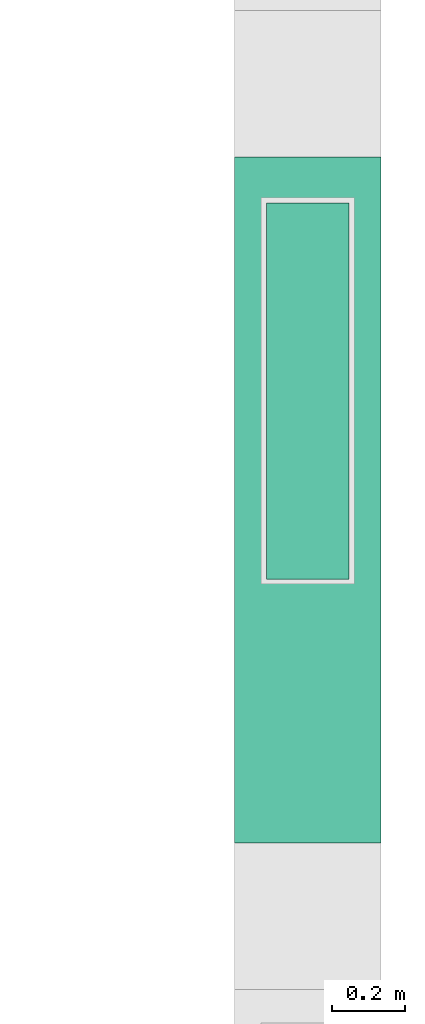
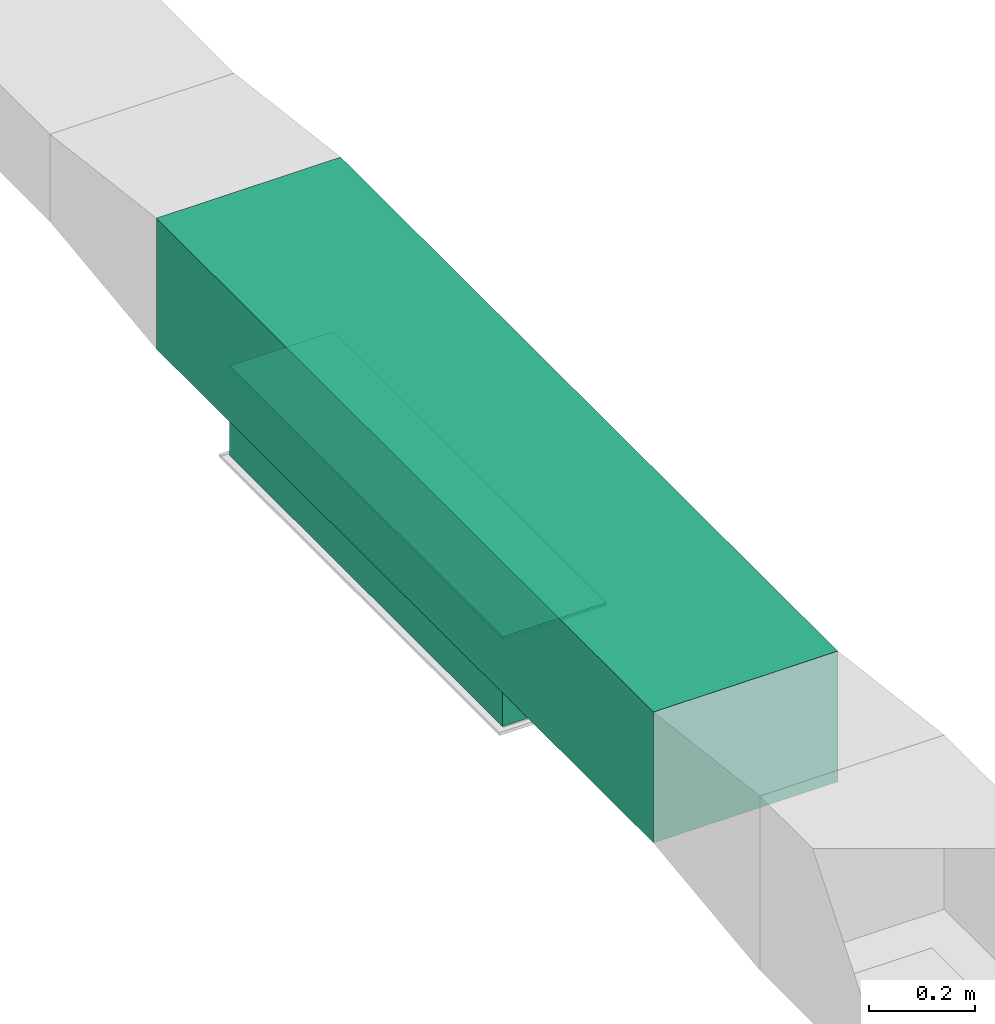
# One storey, part 19 of 60: 2 flow segments, 1 flow fitting.
"""IFC2X3 building model written with IfcOpenShell, lengths in millimetres."""

from ifc_helpers import new_model, entity, si_unit, converted_unit, derived_unit, direction, frame, origin, origin_2d_with_axis, place, context, subcontext, project, spatial, polyline, rectangle, outline, extrude, source, transform, mapped, material, type_object, type_shapes, element, save


model = new_model("IFC2X3")

# Units and contexts
model_context = context("Model", 3, precision=0.01, world=origin(), true_north=direction((6.123233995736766e-17, 1.0)))
body_context = subcontext(model_context, "Body", "Model", "MODEL_VIEW")
ifc_project = project(units=[si_unit("LENGTHUNIT", "METRE", prefix="MILLI"), converted_unit("PLANEANGLEUNIT", "DEGREE", entity("IfcPlaneAngleMeasure", 0.017453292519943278), si_unit("PLANEANGLEUNIT", "RADIAN"), dimensions=[0, 0, 0, 0, 0, 0, 0]), si_unit("AREAUNIT", "SQUARE_METRE"), derived_unit("THERMALTRANSMITTANCEUNIT", [(si_unit("MASSUNIT", "GRAM", prefix="KILO"), 1), (si_unit("THERMODYNAMICTEMPERATUREUNIT", "KELVIN"), -1), (si_unit("TIMEUNIT", "SECOND"), -3)])], contexts=[model_context])

# Site, building, storey
site_placement = place(None, origin())
site = spatial("IfcSite", under=ifc_project, at=site_placement, Name="Default", CompositionType="ELEMENT")
building_placement = place(site_placement, origin())
building = spatial("IfcBuilding", under=site, at=building_placement, Name="Praça Pedro II, 1301 - Centro (Sul), Teresina - PI, 64001-100", CompositionType="ELEMENT")
storey_placement = place(building_placement, frame((0.0, 0.0, 6040.0)))
storey = spatial("IfcBuildingStorey", under=building, at=storey_placement, Name="2PAV", CompositionType="ELEMENT", Elevation=6040.0)

# Flow segments
duct_segment_type = type_object("IfcDuctSegmentType", Name="Duto retangular:Raios cotovelos / torneiras", PredefinedType="NOTDEFINED")
flow_segment_1_placement = place(storey_placement, origin())
element("IfcFlowSegment", 1, at=flow_segment_1_placement, inside=storey, type_object=duct_segment_type, Name="Duto retangular:Raios cotovelos / torneiras", ObjectType="Duto retangular:Raios cotovelos / torneiras", context=body_context, shape_type="SweptSolid", body=[
    extrude(rectangle(XDim=1868.8014561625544, YDim=399.9999999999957, at=origin_2d_with_axis()), frame((39577.44502231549, -54867.9593798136, 3300.0), z_axis=(0.0, 0.0, 1.0), x_axis=(0.0, -1.0, 0.0)), (0.0, 0.0, 1.0), 300.0000000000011),
])
flow_segment_2_placement = place(storey_placement, origin())
element("IfcFlowSegment", 2, at=flow_segment_2_placement, inside=storey, type_object=duct_segment_type, Name="Duto retangular:Raios cotovelos / torneiras", ObjectType="Duto retangular:Raios cotovelos / torneiras", context=body_context, shape_type="SweptSolid", body=[
    extrude(rectangle(XDim=225.00000000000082, YDim=1024.9999999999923, at=origin_2d_with_axis()), frame((39577.444710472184, -54570.527689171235, 3100.0)), (0.0, 0.0, 1.0), 198.99999999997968),
])

# Flow fitting
ifc_material = material(Name="<Unnamed>")
duct_fitting_type = type_object("IfcDuctFittingType", Name="M_Rectangular Tap - Beveled:Standard", PredefinedType="NOTDEFINED", material=ifc_material)
shared_shape = source(origin(), body_context, "Body", "SweptSolid", [
    extrude(outline(polyline([(-3.0383999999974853, -615.4000000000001), (4.057600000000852, -615.4000000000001), (4.057600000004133, 410.6000000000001), (-2.0383999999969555, 410.6000000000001), (-3.0383999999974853, 409.59999999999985), (-3.0383999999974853, -615.4000000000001)])), frame((-2.038399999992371, -102.90000000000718, -112.49999999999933), z_axis=(0.0, 0.0, 1.0), x_axis=(-1.0, 0.0, 0.0)), (0.0, 0.0, 1.0), 224.99999999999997),
])
type_shapes(duct_fitting_type, [shared_shape])
flow_fitting_placement = place(storey_placement, frame((39577.444710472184, -54570.52768917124, 3300.0), z_axis=(1.0, 0.0, 0.0), x_axis=(0.0, 0.0, -1.0)))
element("IfcFlowFitting", 3, at=flow_fitting_placement, inside=storey, type_object=duct_fitting_type, material=ifc_material, Name="M_Rectangular Tap - Beveled:Standard", ObjectType="M_Rectangular Tap - Beveled:Standard", context=body_context, shape_type="MappedRepresentation", body=[
    mapped(shared_shape, transform((0.0, 0.0, 0.0), scale=1.0)),
])

save(model, "model.ifc")
